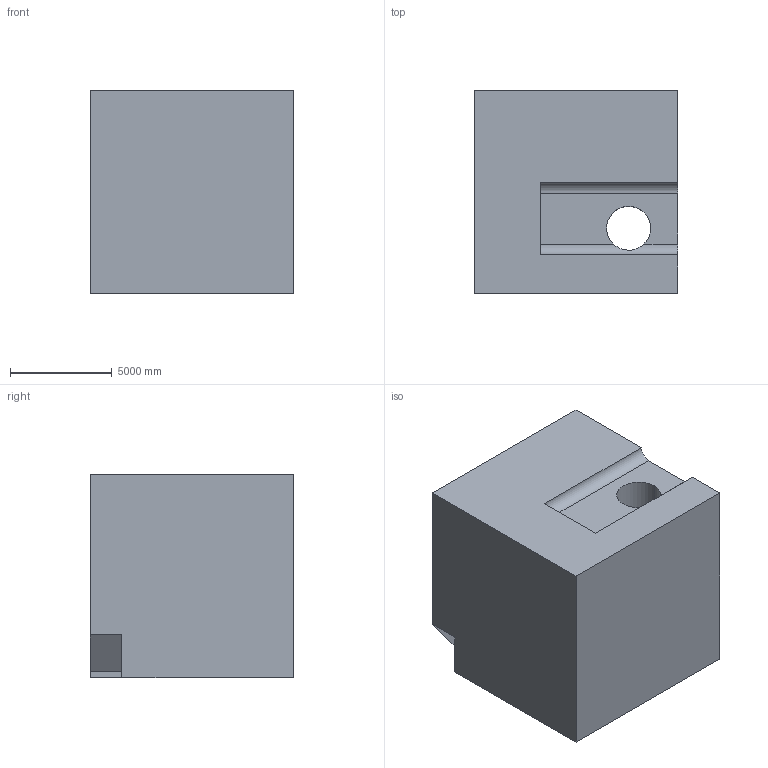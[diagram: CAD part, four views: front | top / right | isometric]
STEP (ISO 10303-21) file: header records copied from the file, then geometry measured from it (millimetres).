
FILE_DESCRIPTION (( 'STEP AP203' ), '1' );
FILE_NAME ('45.STEP', '2022-08-30T14:10:16', ( 'user' ), ( '' ), 'SwSTEP 2.0', 'SolidWorks 2021', '' );
FILE_SCHEMA (( 'CONFIG_CONTROL_DESIGN' ));
Length unit declared in the file: centimetre
Products named in the file (1): 45
Bounding box: 10000 x 10000 x 10000 mm (x, y, z)
Volume: 904636811747.2 mm3; surface area: 699062450.3 mm2
Topology: 1 solids, 1 shells, 22 faces, 63 edges, 42 vertices
Faces by surface type: plane 18, cylinder 4
Entity records: 876 total; most frequent: CARTESIAN_POINT 209, ORIENTED_EDGE 126, DIRECTION 117, EDGE_CURVE 63, LINE 53, VECTOR 53, VERTEX_POINT 42, AXIS2_PLACEMENT_3D 32
